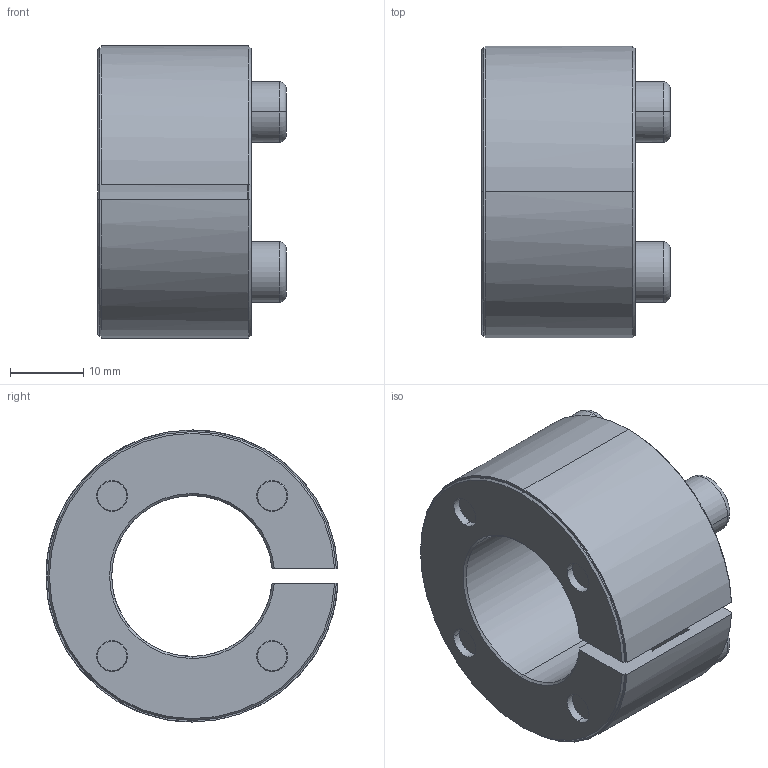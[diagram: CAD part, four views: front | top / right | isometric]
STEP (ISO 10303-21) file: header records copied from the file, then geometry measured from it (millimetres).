
FILE_DESCRIPTION (( 'STEP AP214' ), '1' );
FILE_NAME ('SAPL-E-22-40.STEP', '2024-07-12T02:12:58', ( '决扁浅何厘' ), ( '' ), 'SwSTEP 2.0', 'SolidWorks 2024', '' );
FILE_SCHEMA (( 'AUTOMOTIVE_DESIGN' ));
Length unit declared in the file: millimetre
Products named in the file (1): SAPL-E-22-40
Bounding box: 25.81 x 39.98 x 40 mm (x, y, z)
Volume: 15024.1 mm3; surface area: 10501.6 mm2
Topology: 1 solids, 1 shells, 143 faces, 349 edges, 220 vertices
Faces by surface type: plane 52, cylinder 48, cone 35, torus 8
Entity records: 4391 total; most frequent: CARTESIAN_POINT 897, DIRECTION 767, ORIENTED_EDGE 698, EDGE_CURVE 349, AXIS2_PLACEMENT_3D 307, VERTEX_POINT 220, EDGE_LOOP 169, CIRCLE 163
